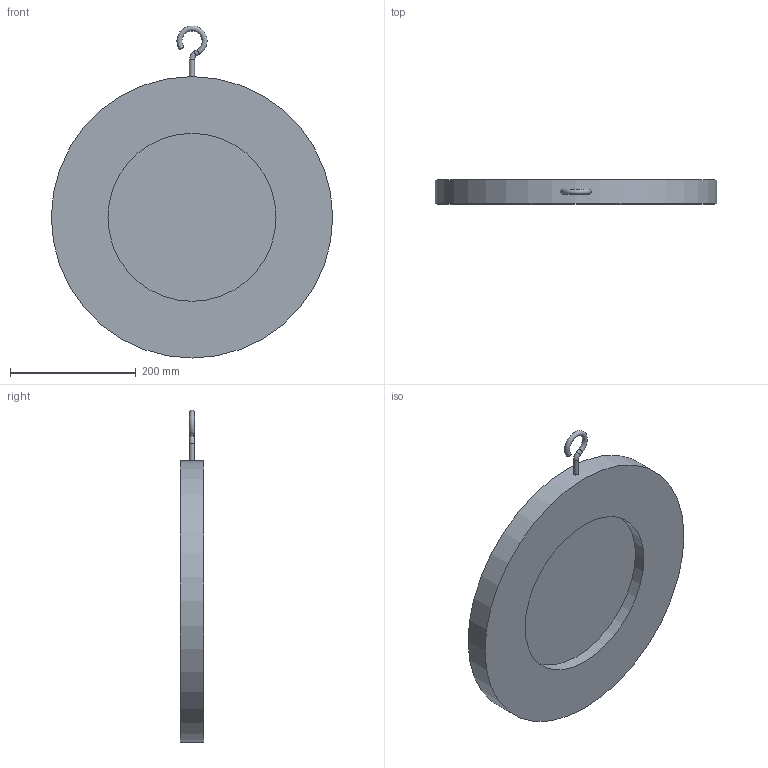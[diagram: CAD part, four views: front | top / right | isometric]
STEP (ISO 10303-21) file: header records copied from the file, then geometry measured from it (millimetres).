
FILE_DESCRIPTION(('STEP AP203'), '1');
FILE_NAME('孰囡囗 钺疣蝽 钿眍耱忸瘅囹 戾骠豚眦邂 008C DN350', '', ('UNSPECIFIED'), ('UNSPECIFIED'), 'ASCON STEP Converter 1.6', 'ASCON Math Kernel', '');
FILE_SCHEMA(('CONFIG_CONTROL_DESIGN'));
Length unit declared in the file: millimetre
Bounding box: 447 x 38 x 527.42 mm (x, y, z)
Volume: 3888090.2 mm3; surface area: 411432 mm2
Topology: 1 solids, 1 shells, 15 faces, 30 edges, 19 vertices
Faces by surface type: plane 7, cylinder 5, torus 2, cone 1
Full cylindrical faces by diameter (mm): 8 x2, 267 x1, 447 x1
Entity records: 751 total; most frequent: CARTESIAN_POINT 307, DIRECTION 62, ORIENTED_EDGE 46, AXIS2_PLACEMENT_3D 28, EDGE_LOOP 24, EDGE_CURVE 23, VERTEX_POINT 19, COLOUR_RGB 16
